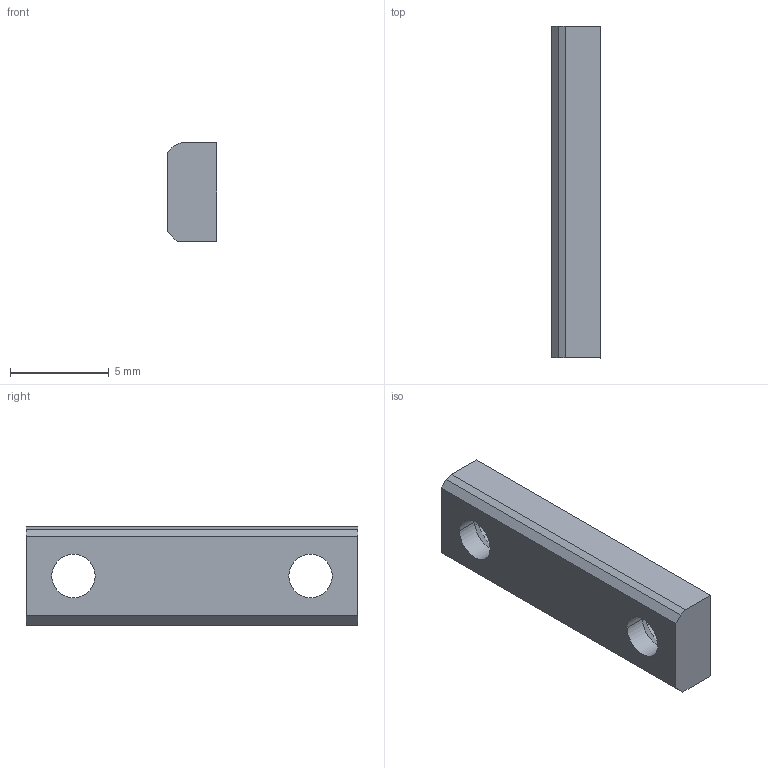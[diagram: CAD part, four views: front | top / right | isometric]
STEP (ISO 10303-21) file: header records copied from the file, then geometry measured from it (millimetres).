
FILE_DESCRIPTION(/* description */ ('VariCAD 2010-3.03 AP-214'),/* implementation_level */ '2;1');
FILE_NAME(/* name */ '0353-19-78',/* time_stamp */ '2011-03-01T16:17:45-07:00',/* author */ (''),/* organization */ (''),/* preprocessor_version */ 'ST-DEVELOPER v12',/* originating_system */ 'VariCAD 2010-3.03; kernel version (20100102)',/* authorisation */ '');
FILE_SCHEMA (('AUTOMOTIVE_DESIGN'));
Length unit declared in the file: millimetre
Products named in the file (1): Part
Bounding box: 2.5 x 16.8 x 5 mm (x, y, z)
Volume: 170.6 mm3; surface area: 285.9 mm2
Topology: 1 solids, 1 shells, 21 faces, 49 edges, 30 vertices
Faces by surface type: plane 9, cylinder 8, cone 4
Entity records: 630 total; most frequent: DIRECTION 111, CARTESIAN_POINT 102, ORIENTED_EDGE 98, EDGE_CURVE 49, AXIS2_PLACEMENT_3D 39, LINE 33, VECTOR 33, VERTEX_POINT 30
